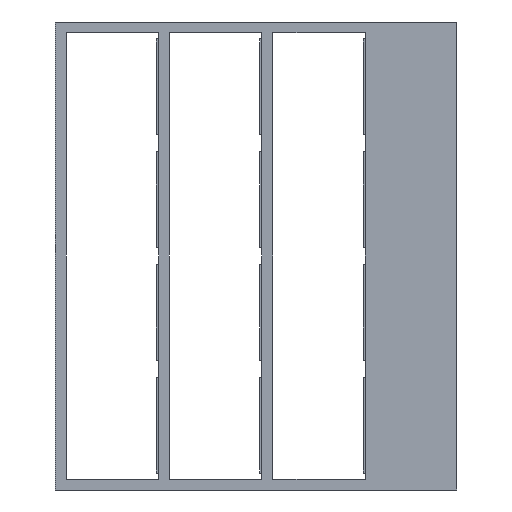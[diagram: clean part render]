
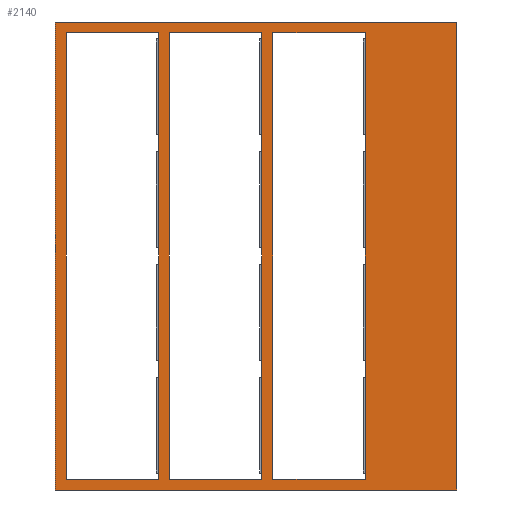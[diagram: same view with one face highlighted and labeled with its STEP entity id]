
A CAD part, front view. The second image highlights one B-rep face of the part: STEP entity #2140.
In plain terms, the highlighted planar face has unit normal (0, -1, 0) as drawn and (1, 0, 0) by its records, which use the part's own axes.
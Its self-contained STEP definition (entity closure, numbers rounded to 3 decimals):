
#54 = ORIENTED_EDGE ( 'NONE', *, *, #1089, .T. ) ;
#57 = VECTOR ( 'NONE', #2309, 1000. ) ;
#117 = CARTESIAN_POINT ( 'NONE',  ( 520., 2100., 845. ) ) ;
#125 = VERTEX_POINT ( 'NONE', #2858 ) ;
#149 = LINE ( 'NONE', #2716, #550 ) ;
#151 = VECTOR ( 'NONE', #2032, 1000. ) ;
#212 = LINE ( 'NONE', #443, #1144 ) ;
#236 = VERTEX_POINT ( 'NONE', #1011 ) ;
#246 = VECTOR ( 'NONE', #2563, 1000. ) ;
#273 = CARTESIAN_POINT ( 'NONE',  ( 520., 2100., 1795. ) ) ;
#352 = CARTESIAN_POINT ( 'NONE',  ( 520., 50., 1795. ) ) ;
#365 = LINE ( 'NONE', #352, #151 ) ;
#403 = EDGE_CURVE ( 'NONE', #2631, #236, #1864, .T. ) ;
#443 = CARTESIAN_POINT ( 'NONE',  ( 520., 2150., 845. ) ) ;
#447 = ORIENTED_EDGE ( 'NONE', *, *, #2102, .F. ) ;
#468 = EDGE_CURVE ( 'NONE', #2609, #3048, #2525, .T. ) ;
#500 = EDGE_CURVE ( 'NONE', #2721, #125, #758, .T. ) ;
#550 = VECTOR ( 'NONE', #2524, 1000. ) ;
#566 = CARTESIAN_POINT ( 'NONE',  ( 520., 50., 895. ) ) ;
#567 = EDGE_CURVE ( 'NONE', #2183, #1219, #741, .T. ) ;
#608 = FACE_BOUND ( 'NONE', #2994, .T. ) ;
#614 = VERTEX_POINT ( 'NONE', #117 ) ;
#623 = VERTEX_POINT ( 'NONE', #2714 ) ;
#645 = ORIENTED_EDGE ( 'NONE', *, *, #1797, .F. ) ;
#734 = DIRECTION ( 'NONE',  ( -1., 0., 0. ) ) ;
#741 = LINE ( 'NONE', #945, #950 ) ;
#758 = LINE ( 'NONE', #2175, #3064 ) ;
#782 = EDGE_LOOP ( 'NONE', ( #1275, #54, #1360, #1577 ) ) ;
#837 = LINE ( 'NONE', #1760, #2520 ) ;
#872 = LINE ( 'NONE', #1579, #1650 ) ;
#880 = LINE ( 'NONE', #928, #1792 ) ;
#905 = LINE ( 'NONE', #2054, #246 ) ;
#928 = CARTESIAN_POINT ( 'NONE',  ( 520., 2150., 420. ) ) ;
#945 = CARTESIAN_POINT ( 'NONE',  ( 520., 2150., 1320. ) ) ;
#950 = VECTOR ( 'NONE', #1418, 1000. ) ;
#1011 = CARTESIAN_POINT ( 'NONE',  ( 520., 50., 420. ) ) ;
#1075 = ORIENTED_EDGE ( 'NONE', *, *, #468, .T. ) ;
#1089 = EDGE_CURVE ( 'NONE', #1219, #2814, #3016, .T. ) ;
#1110 = DIRECTION ( 'NONE',  ( 0., 0., -1. ) ) ;
#1130 = CARTESIAN_POINT ( 'NONE',  ( 520., 50., 845. ) ) ;
#1144 = VECTOR ( 'NONE', #2774, 1000. ) ;
#1145 = CARTESIAN_POINT ( 'NONE',  ( 520., 2100., 845. ) ) ;
#1191 = CARTESIAN_POINT ( 'NONE',  ( 520., 2100., 1370. ) ) ;
#1219 = VERTEX_POINT ( 'NONE', #1366 ) ;
#1265 = EDGE_CURVE ( 'NONE', #1839, #2609, #2088, .T. ) ;
#1275 = ORIENTED_EDGE ( 'NONE', *, *, #567, .T. ) ;
#1280 = ORIENTED_EDGE ( 'NONE', *, *, #2386, .F. ) ;
#1288 = CARTESIAN_POINT ( 'NONE',  ( 520., 2100., 895. ) ) ;
#1352 = AXIS2_PLACEMENT_3D ( 'NONE', #2072, #734, #2816 ) ;
#1360 = ORIENTED_EDGE ( 'NONE', *, *, #2416, .F. ) ;
#1363 = FACE_BOUND ( 'NONE', #782, .T. ) ;
#1365 = EDGE_CURVE ( 'NONE', #2183, #2784, #837, .T. ) ;
#1366 = CARTESIAN_POINT ( 'NONE',  ( 520., 2100., 1320. ) ) ;
#1370 = LINE ( 'NONE', #1145, #57 ) ;
#1376 = EDGE_LOOP ( 'NONE', ( #1886, #2071, #2934, #1904 ) ) ;
#1418 = DIRECTION ( 'NONE',  ( 0., 1., 0. ) ) ;
#1447 = CARTESIAN_POINT ( 'NONE',  ( 520., 2150., 0. ) ) ;
#1456 = DIRECTION ( 'NONE',  ( 0., 1., 0. ) ) ;
#1489 = VERTEX_POINT ( 'NONE', #2794 ) ;
#1502 = DIRECTION ( 'NONE',  ( 0., 0., -1. ) ) ;
#1528 = VECTOR ( 'NONE', #1110, 1000. ) ;
#1551 = CARTESIAN_POINT ( 'NONE',  ( 520., 2150., 1845. ) ) ;
#1565 = PLANE ( 'NONE',  #1352 ) ;
#1577 = ORIENTED_EDGE ( 'NONE', *, *, #1365, .F. ) ;
#1579 = CARTESIAN_POINT ( 'NONE',  ( 520., 2150., 420. ) ) ;
#1624 = CARTESIAN_POINT ( 'NONE',  ( 520., 50., 1795. ) ) ;
#1633 = LINE ( 'NONE', #1447, #2146 ) ;
#1650 = VECTOR ( 'NONE', #1825, 1000. ) ;
#1713 = CARTESIAN_POINT ( 'NONE',  ( 520., 2150., 1795. ) ) ;
#1760 = CARTESIAN_POINT ( 'NONE',  ( 520., 50., 1320. ) ) ;
#1792 = VECTOR ( 'NONE', #1830, 1000. ) ;
#1797 = EDGE_CURVE ( 'NONE', #623, #3048, #905, .T. ) ;
#1825 = DIRECTION ( 'NONE',  ( 0., 0., -1. ) ) ;
#1830 = DIRECTION ( 'NONE',  ( 0., 1., 0. ) ) ;
#1839 = VERTEX_POINT ( 'NONE', #1624 ) ;
#1864 = LINE ( 'NONE', #1130, #2988 ) ;
#1886 = ORIENTED_EDGE ( 'NONE', *, *, #2454, .T. ) ;
#1904 = ORIENTED_EDGE ( 'NONE', *, *, #403, .F. ) ;
#1912 = EDGE_CURVE ( 'NONE', #2721, #2212, #2214, .T. ) ;
#1977 = ORIENTED_EDGE ( 'NONE', *, *, #1912, .F. ) ;
#2022 = ORIENTED_EDGE ( 'NONE', *, *, #1265, .T. ) ;
#2032 = DIRECTION ( 'NONE',  ( 0., 0., -1. ) ) ;
#2054 = CARTESIAN_POINT ( 'NONE',  ( 520., 2150., 1370. ) ) ;
#2065 = CARTESIAN_POINT ( 'NONE',  ( 520., 2100., 1795. ) ) ;
#2071 = ORIENTED_EDGE ( 'NONE', *, *, #2493, .T. ) ;
#2072 = CARTESIAN_POINT ( 'NONE',  ( 520., 2150., 420. ) ) ;
#2088 = LINE ( 'NONE', #1713, #2403 ) ;
#2102 = EDGE_CURVE ( 'NONE', #2212, #1489, #872, .T. ) ;
#2121 = CARTESIAN_POINT ( 'NONE',  ( 520., 2150., 1845. ) ) ;
#2129 = DIRECTION ( 'NONE',  ( 0., 0., -1. ) ) ;
#2140 = ADVANCED_FACE ( 'NONE', ( #2768, #608, #1363, #2302 ), #1565, .F. ) ;
#2146 = VECTOR ( 'NONE', #2885, 1000. ) ;
#2167 = CARTESIAN_POINT ( 'NONE',  ( 520., 50., 1320. ) ) ;
#2173 = CARTESIAN_POINT ( 'NONE',  ( 520., 50., 845. ) ) ;
#2175 = CARTESIAN_POINT ( 'NONE',  ( 520., 0., 420. ) ) ;
#2183 = VERTEX_POINT ( 'NONE', #2167 ) ;
#2202 = CARTESIAN_POINT ( 'NONE',  ( 520., 2100., 420. ) ) ;
#2212 = VERTEX_POINT ( 'NONE', #2121 ) ;
#2214 = LINE ( 'NONE', #1551, #2734 ) ;
#2226 = DIRECTION ( 'NONE',  ( 0., 1., 0. ) ) ;
#2272 = CARTESIAN_POINT ( 'NONE',  ( 520., 2100., 1320. ) ) ;
#2277 = DIRECTION ( 'NONE',  ( 0., 0., -1. ) ) ;
#2302 = FACE_BOUND ( 'NONE', #1376, .T. ) ;
#2309 = DIRECTION ( 'NONE',  ( 0., 0., -1. ) ) ;
#2331 = ORIENTED_EDGE ( 'NONE', *, *, #500, .T. ) ;
#2386 = EDGE_CURVE ( 'NONE', #1839, #623, #365, .T. ) ;
#2403 = VECTOR ( 'NONE', #1456, 1000. ) ;
#2416 = EDGE_CURVE ( 'NONE', #2784, #2814, #149, .T. ) ;
#2443 = EDGE_LOOP ( 'NONE', ( #447, #1977, #2331, #2565 ) ) ;
#2454 = EDGE_CURVE ( 'NONE', #2631, #614, #212, .T. ) ;
#2493 = EDGE_CURVE ( 'NONE', #614, #3033, #1370, .T. ) ;
#2520 = VECTOR ( 'NONE', #1502, 1000. ) ;
#2524 = DIRECTION ( 'NONE',  ( 0., 1., 0. ) ) ;
#2525 = LINE ( 'NONE', #2065, #2669 ) ;
#2544 = DIRECTION ( 'NONE',  ( 0., 0., -1. ) ) ;
#2552 = EDGE_CURVE ( 'NONE', #236, #3033, #880, .T. ) ;
#2563 = DIRECTION ( 'NONE',  ( 0., 1., 0. ) ) ;
#2565 = ORIENTED_EDGE ( 'NONE', *, *, #2582, .T. ) ;
#2582 = EDGE_CURVE ( 'NONE', #125, #1489, #1633, .T. ) ;
#2609 = VERTEX_POINT ( 'NONE', #273 ) ;
#2631 = VERTEX_POINT ( 'NONE', #2173 ) ;
#2669 = VECTOR ( 'NONE', #2277, 1000. ) ;
#2684 = CARTESIAN_POINT ( 'NONE',  ( 520., 0., 1845. ) ) ;
#2714 = CARTESIAN_POINT ( 'NONE',  ( 520., 50., 1370. ) ) ;
#2716 = CARTESIAN_POINT ( 'NONE',  ( 520., 2150., 895. ) ) ;
#2721 = VERTEX_POINT ( 'NONE', #2684 ) ;
#2734 = VECTOR ( 'NONE', #2226, 1000. ) ;
#2768 = FACE_OUTER_BOUND ( 'NONE', #2443, .T. ) ;
#2774 = DIRECTION ( 'NONE',  ( 0., 1., 0. ) ) ;
#2784 = VERTEX_POINT ( 'NONE', #566 ) ;
#2794 = CARTESIAN_POINT ( 'NONE',  ( 520., 2150., 0. ) ) ;
#2814 = VERTEX_POINT ( 'NONE', #1288 ) ;
#2816 = DIRECTION ( 'NONE',  ( 0., -1., 0. ) ) ;
#2858 = CARTESIAN_POINT ( 'NONE',  ( 520., 0., 0. ) ) ;
#2885 = DIRECTION ( 'NONE',  ( 0., 1., 0. ) ) ;
#2934 = ORIENTED_EDGE ( 'NONE', *, *, #2552, .F. ) ;
#2988 = VECTOR ( 'NONE', #2544, 1000. ) ;
#2994 = EDGE_LOOP ( 'NONE', ( #2022, #1075, #645, #1280 ) ) ;
#3016 = LINE ( 'NONE', #2272, #1528 ) ;
#3033 = VERTEX_POINT ( 'NONE', #2202 ) ;
#3048 = VERTEX_POINT ( 'NONE', #1191 ) ;
#3064 = VECTOR ( 'NONE', #2129, 1000. ) ;
